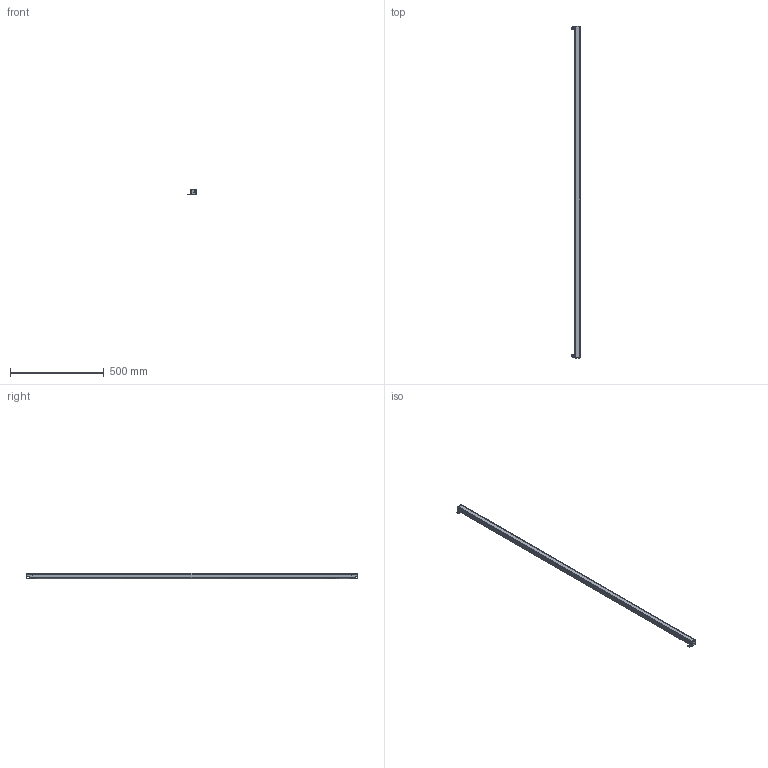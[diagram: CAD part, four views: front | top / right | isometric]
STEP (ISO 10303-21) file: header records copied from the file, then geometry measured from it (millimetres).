
FILE_DESCRIPTION(/* description */ (''),/* implementation_level */ '2;1');
FILE_NAME(/* name */ '4440(30X30).stp',/* time_stamp */ '2023-10-23T14:23:52+08:00',/* author */ (''),/* organization */ (''),/* preprocessor_version */ 'ST-DEVELOPER v16.7',/* originating_system */ 'SIEMENS PLM Software NX 12.0',/* authorisation */ '');
FILE_SCHEMA (('AP203_CONFIGURATION_CONTROLLED_3D_DESIGN_OF_MECHANICAL_PARTS_AND_ASSEMBLIES_MIM_LF { 1 0 10303 403 2 1 2}'));
Length unit declared in the file: millimetre
Products named in the file (1): 3840_30X30__stp
Bounding box: 44.89 x 1768.4 x 31.39 mm (x, y, z)
Volume: 547436.3 mm3; surface area: 579532.8 mm2
Topology: 6 solids, 6 shells, 441 faces, 1311 edges, 871 vertices
Faces by surface type: plane 256, cylinder 132, cone 32, bspline 14, extrusion 7
Full cylindrical faces by diameter (mm): 1.5 x2, 3.2 x8, 3.5 x8
Entity records: 15730 total; most frequent: CARTESIAN_POINT 3886, ORIENTED_EDGE 2528, DIRECTION 2314, EDGE_CURVE 1264, VECTOR 856, VERTEX_POINT 855, LINE 849, AXIS2_PLACEMENT_3D 729
